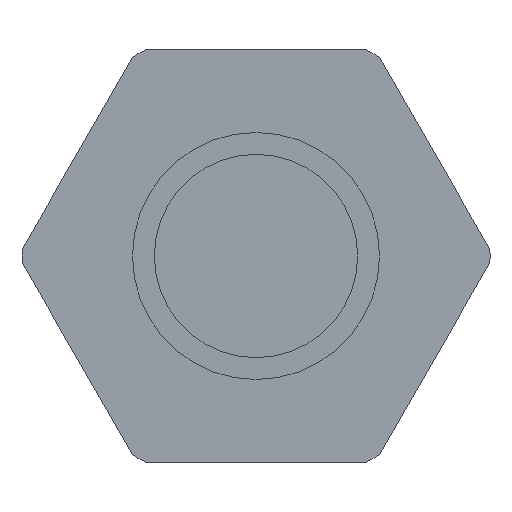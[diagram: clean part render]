
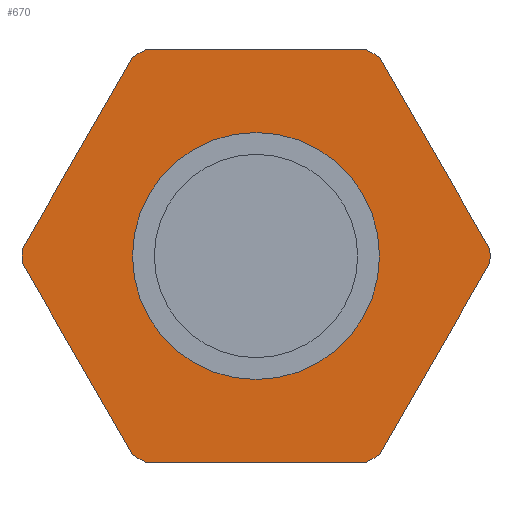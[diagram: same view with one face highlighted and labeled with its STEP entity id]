
A CAD part, left-side view. The second image highlights one B-rep face of the part: STEP entity #670.
In plain terms, the highlighted planar face has unit normal (-1, 0, 0).
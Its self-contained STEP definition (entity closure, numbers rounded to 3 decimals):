
#37=LINE($,#1029,#87);
#42=LINE($,#1040,#92);
#47=LINE($,#1051,#97);
#52=LINE($,#1062,#102);
#57=LINE($,#1073,#107);
#65=LINE($,#1114,#115);
#87=VECTOR($,#835,4.266);
#92=VECTOR($,#842,4.266);
#97=VECTOR($,#849,4.266);
#102=VECTOR($,#856,4.266);
#107=VECTOR($,#863,4.266);
#115=VECTOR($,#923,4.266);
#139=PLANE($,#741);
#151=FACE_BOUND($,#236,.T.);
#187=FACE_OUTER_BOUND($,#235,.T.);
#235=EDGE_LOOP($,(#552,#553,#554,#555,#556,#557,#558,#559,#560,#561,#562,
#563));
#236=EDGE_LOOP($,(#564));
#267=CIRCLE($,#729,4.5);
#268=CIRCLE($,#731,4.5);
#269=CIRCLE($,#733,4.5);
#270=CIRCLE($,#735,4.5);
#271=CIRCLE($,#737,4.5);
#272=CIRCLE($,#740,2.375);
#273=CIRCLE($,#742,4.5);
#302=VERTEX_POINT($,#1025);
#304=VERTEX_POINT($,#1028);
#307=VERTEX_POINT($,#1036);
#309=VERTEX_POINT($,#1039);
#312=VERTEX_POINT($,#1047);
#314=VERTEX_POINT($,#1050);
#317=VERTEX_POINT($,#1058);
#319=VERTEX_POINT($,#1061);
#322=VERTEX_POINT($,#1069);
#324=VERTEX_POINT($,#1072);
#330=VERTEX_POINT($,#1100);
#331=VERTEX_POINT($,#1104);
#332=VERTEX_POINT($,#1116);
#368=EDGE_CURVE($,#304,#302,#37,.T.);
#373=EDGE_CURVE($,#309,#307,#42,.T.);
#378=EDGE_CURVE($,#314,#312,#47,.T.);
#383=EDGE_CURVE($,#319,#317,#52,.T.);
#388=EDGE_CURVE($,#324,#322,#57,.T.);
#404=EDGE_CURVE($,#304,#330,#267,.T.);
#407=EDGE_CURVE($,#331,#322,#268,.T.);
#408=EDGE_CURVE($,#324,#317,#269,.T.);
#409=EDGE_CURVE($,#319,#312,#270,.T.);
#410=EDGE_CURVE($,#314,#307,#271,.T.);
#411=EDGE_CURVE($,#331,#330,#65,.T.);
#412=EDGE_CURVE($,#332,#332,#272,.T.);
#413=EDGE_CURVE($,#309,#302,#273,.T.);
#552=ORIENTED_EDGE($,*,*,#368,.T.);
#553=ORIENTED_EDGE($,*,*,#413,.F.);
#554=ORIENTED_EDGE($,*,*,#373,.T.);
#555=ORIENTED_EDGE($,*,*,#410,.F.);
#556=ORIENTED_EDGE($,*,*,#378,.T.);
#557=ORIENTED_EDGE($,*,*,#409,.F.);
#558=ORIENTED_EDGE($,*,*,#383,.T.);
#559=ORIENTED_EDGE($,*,*,#408,.F.);
#560=ORIENTED_EDGE($,*,*,#388,.T.);
#561=ORIENTED_EDGE($,*,*,#407,.F.);
#562=ORIENTED_EDGE($,*,*,#411,.T.);
#563=ORIENTED_EDGE($,*,*,#404,.F.);
#564=ORIENTED_EDGE($,*,*,#412,.T.);
#670=ADVANCED_FACE($,(#187,#151),#139,.T.);
#729=AXIS2_PLACEMENT_3D($,#1101,#901,#902);
#731=AXIS2_PLACEMENT_3D($,#1106,#907,#908);
#733=AXIS2_PLACEMENT_3D($,#1108,#911,#912);
#735=AXIS2_PLACEMENT_3D($,#1110,#915,#916);
#737=AXIS2_PLACEMENT_3D($,#1112,#919,#920);
#740=AXIS2_PLACEMENT_3D($,#1117,#926,#927);
#741=AXIS2_PLACEMENT_3D($,#1118,#928,#929);
#742=AXIS2_PLACEMENT_3D($,#1119,#930,#931);
#835=DIRECTION($,(0.,0.5,-0.866));
#842=DIRECTION($,(0.,-0.5,-0.866));
#849=DIRECTION($,(0.,-1.,0.));
#856=DIRECTION($,(0.,-0.5,0.866));
#863=DIRECTION($,(0.,0.5,0.866));
#901=DIRECTION('center_axis',(1.,0.,0.));
#902=DIRECTION('ref_axis',(0.,0.,
-1.));
#907=DIRECTION('center_axis',(1.,0.,0.));
#908=DIRECTION('ref_axis',(0.,0.,
-1.));
#911=DIRECTION('center_axis',(1.,0.,0.));
#912=DIRECTION('ref_axis',(0.,0.,
-1.));
#915=DIRECTION('center_axis',(1.,0.,0.));
#916=DIRECTION('ref_axis',(0.,0.,
-1.));
#919=DIRECTION('center_axis',(1.,0.,0.));
#920=DIRECTION('ref_axis',(0.,0.,
-1.));
#923=DIRECTION($,(0.,1.,0.));
#926=DIRECTION('center_axis',(1.,0.,0.));
#927=DIRECTION('ref_axis',(0.,0.,
-1.));
#928=DIRECTION('center_axis',(-1.,0.,0.));
#929=DIRECTION('ref_axis',(0.,0.,1.));
#930=DIRECTION('center_axis',(1.,0.,0.));
#931=DIRECTION('ref_axis',(0.,0.,
-1.));
#1025=CARTESIAN_POINT('',(-16.594,10.483,2.367));
#1028=CARTESIAN_POINT('',(-16.594,8.35,6.061));
#1029=CARTESIAN_POINT($,(-16.594,10.045,3.127));
#1036=CARTESIAN_POINT('',(-16.594,8.35,-1.595));
#1039=CARTESIAN_POINT('',(-16.594,10.483,2.099));
#1040=CARTESIAN_POINT($,(-16.594,9.914,1.113));
#1047=CARTESIAN_POINT('',(-16.594,3.852,-1.729));
#1050=CARTESIAN_POINT('',(-16.594,8.118,-1.729));
#1051=CARTESIAN_POINT($,(-16.594,8.104,-1.729));
#1058=CARTESIAN_POINT('',(-16.594,1.487,2.099));
#1061=CARTESIAN_POINT('',(-16.594,3.62,-1.595));
#1062=CARTESIAN_POINT($,(-16.594,3.051,-0.609));
#1069=CARTESIAN_POINT('',(-16.594,3.62,6.061));
#1072=CARTESIAN_POINT('',(-16.594,1.487,2.367));
#1073=CARTESIAN_POINT($,(-16.594,3.182,5.302));
#1100=CARTESIAN_POINT('',(-16.594,8.118,6.195));
#1101=CARTESIAN_POINT('Origin',(-16.594,5.985,2.233));
#1104=CARTESIAN_POINT('',(-16.594,3.852,6.195));
#1106=CARTESIAN_POINT('Origin',(-16.594,5.985,2.233));
#1108=CARTESIAN_POINT('Origin',(-16.594,5.985,2.233));
#1110=CARTESIAN_POINT('Origin',(-16.594,5.985,2.233));
#1112=CARTESIAN_POINT('Origin',(-16.594,5.985,2.233));
#1114=CARTESIAN_POINT($,(-16.594,8.366,6.195));
#1116=CARTESIAN_POINT('',(-16.594,8.36,2.233));
#1117=CARTESIAN_POINT('Origin',(-16.594,5.985,2.233));
#1118=CARTESIAN_POINT('Origin',(-16.594,10.485,2.233));
#1119=CARTESIAN_POINT('Origin',(-16.594,5.985,2.233));
